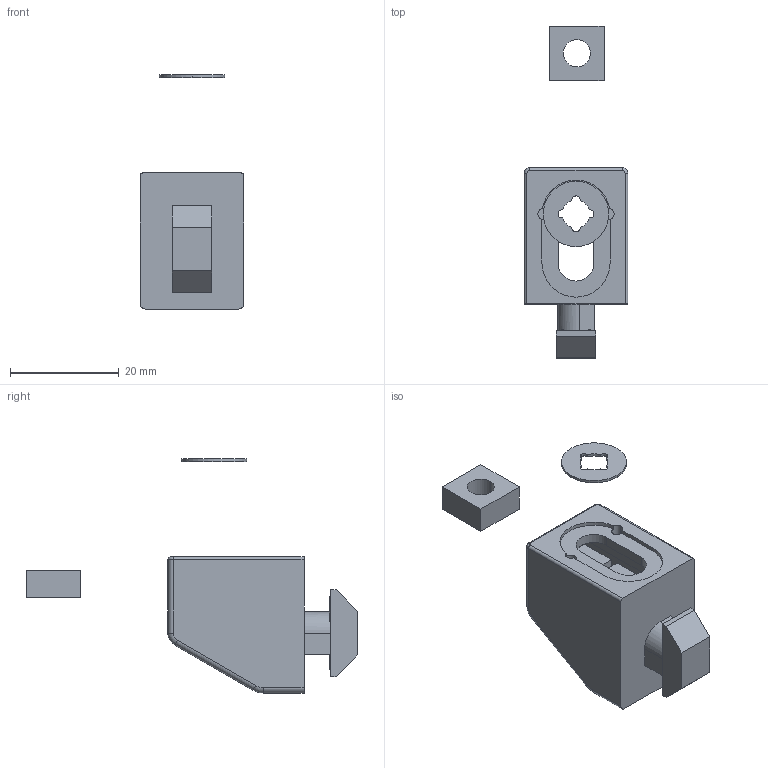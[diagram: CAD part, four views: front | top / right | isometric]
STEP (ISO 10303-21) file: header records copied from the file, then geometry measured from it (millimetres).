
FILE_DESCRIPTION(('STEP AP242'),'1');
FILE_NAME('fath_094080csm6.stp','2021-04-01T11:18:04',('TraceParts'),('TraceParts S.A.'),'Spatial InterOp 3D',' ',' ');
FILE_SCHEMA(('AP242_MANAGED_MODEL_BASED_3D_ENGINEERING_MIM_LF {1 0 10303 442 1 1 4}'));
Length unit declared in the file: millimetre
Products named in the file (1): fath_094080csm6_1
Bounding box: 19 x 60.94 x 42.99 mm (x, y, z)
Volume: 6049.6 mm3; surface area: 5022.1 mm2
Topology: 3 solids, 3 shells, 141 faces, 373 edges, 242 vertices
Faces by surface type: plane 83, cylinder 48, torus 10
Entity records: 4448 total; most frequent: CARTESIAN_POINT 791, DIRECTION 761, ORIENTED_EDGE 746, EDGE_CURVE 373, LINE 257, VECTOR 257, AXIS2_PLACEMENT_3D 252, VERTEX_POINT 242
